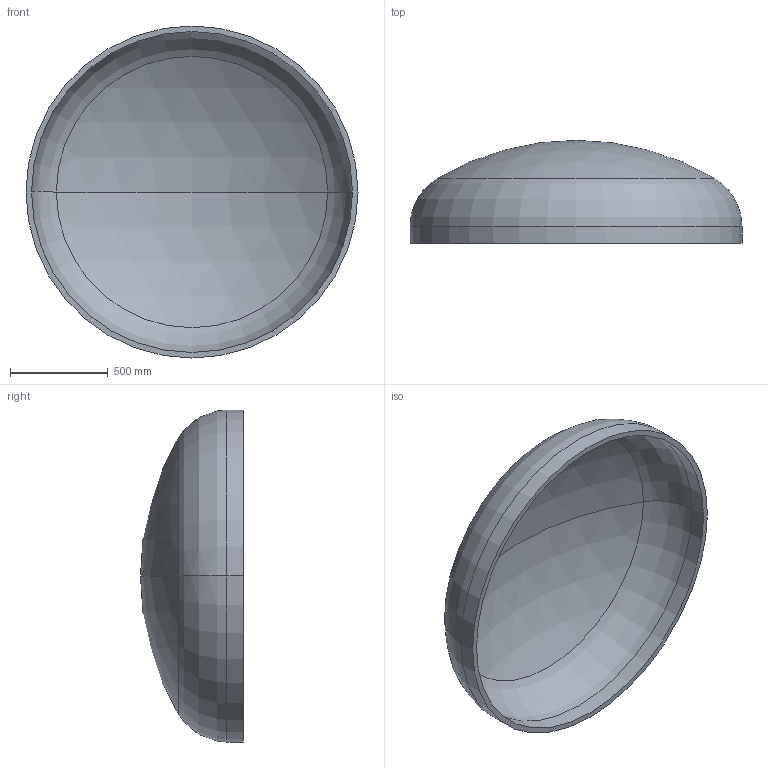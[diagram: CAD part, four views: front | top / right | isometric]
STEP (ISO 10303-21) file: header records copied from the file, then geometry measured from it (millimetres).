
FILE_DESCRIPTION (( 'STEP AP203' ), '1' );
FILE_NAME ('DIN 28013 Korbbogenform_-_Boden DIN 28013 - 1700 x 85 - I - s=28.step', '2016-07-01T11:43:41', ( '' ), ( '' ), 'SwSTEP 2.0', 'SolidWorks 2013', '' );
FILE_SCHEMA (( 'CONFIG_CONTROL_DESIGN' ));
Length unit declared in the file: millimetre
Products named in the file (1): DIN 28013 Korbbogenform_-_Boden DIN 28013 - 1700 x 85 - I - s=28
Bounding box: 1700 x 527.4 x 1700 mm (x, y, z)
Volume: 98514041.8 mm3; surface area: 7185433.7 mm2
Topology: 1 solids, 1 shells, 13 faces, 24 edges, 14 vertices
Faces by surface type: torus 4, cylinder 4, sphere 4, plane 1
Entity records: 407 total; most frequent: DIRECTION 72, CARTESIAN_POINT 52, ORIENTED_EDGE 48, AXIS2_PLACEMENT_3D 34, EDGE_CURVE 24, CIRCLE 20, VERTEX_POINT 14, EDGE_LOOP 14
